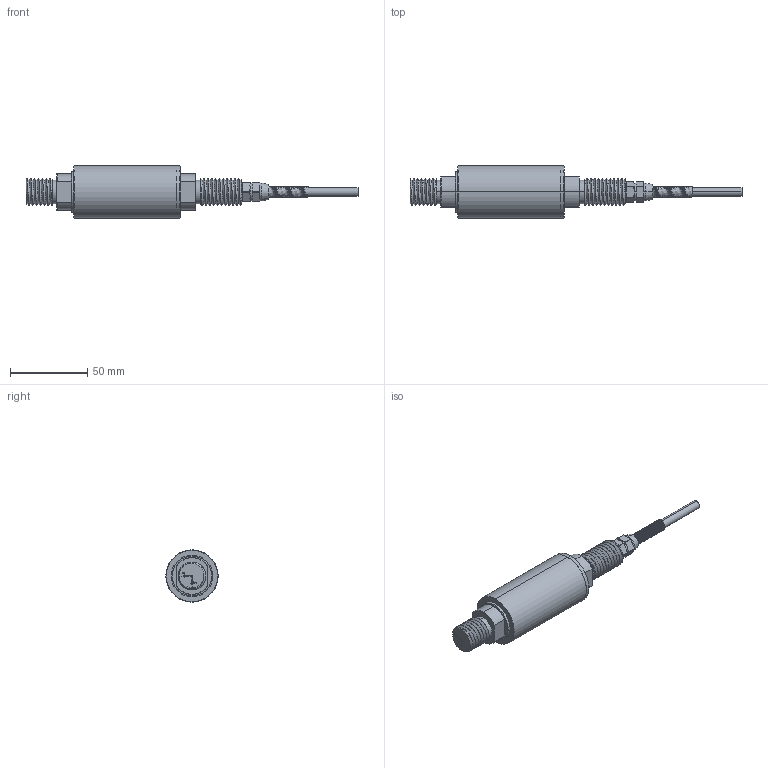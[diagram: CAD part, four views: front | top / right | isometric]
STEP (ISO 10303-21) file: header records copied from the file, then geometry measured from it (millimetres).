
FILE_DESCRIPTION (( 'STEP AP203' ), '1' );
FILE_NAME ('LCM12.STEP', '2024-07-16T03:07:31', ( '' ), ( '' ), 'SwSTEP 2.0', 'SolidWorks 2019', '' );
FILE_SCHEMA (( 'CONFIG_CONTROL_DESIGN' ));
Length unit declared in the file: millimetre
Products named in the file (1): LCM12
Bounding box: 215.5 x 34 x 34 mm (x, y, z)
Volume: 83739 mm3; surface area: 27224.5 mm2
Topology: 1 solids, 1 shells, 183 faces, 476 edges, 312 vertices
Faces by surface type: cylinder 77, plane 72, cone 20, bspline 10, torus 4
Entity records: 21241 total; most frequent: CARTESIAN_POINT 16885, ORIENTED_EDGE 952, DIRECTION 816, EDGE_CURVE 476, VERTEX_POINT 312, AXIS2_PLACEMENT_3D 294, VECTOR 228, LINE 228
